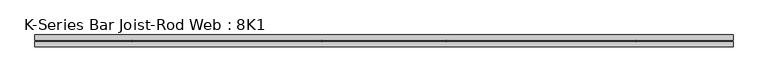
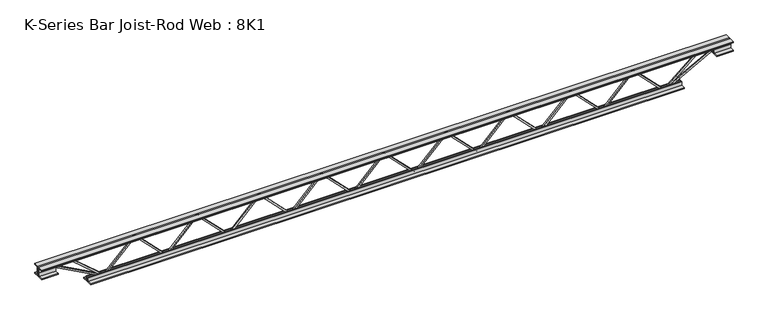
"""IFC4 building model written with IfcOpenShell, lengths in millimetres: beam geometry, K-Series Bar Joist-Rod Web : 8K1."""

from ifc_helpers import new_model, si_unit, frame, origin, place, context, project, spatial, polyline, outline, extrude, source, transform, mapped, element, save


def k_series_bar_joist_rod_web_8k1_4aadf061(model_context):
    return source(origin(), model_context, "Body", "SweptSolid", [
        extrude(outline(polyline([(-90.4875, 968.3504289), (-100.0125, 968.3504289), (-100.0125, 973.521642), (90.4875, 1160.8417278), (90.4875, 1163.1993017), (-100.0125, 1350.5193875), (-100.0125, 1355.6906005), (-90.4875, 1355.6906005), (-90.4875, 1354.5118136), (100.0125, 1167.1917278), (100.0125, 1156.8493017), (-90.4875, 969.5292159), (-90.4875, 968.3504289)])), frame((0.0, -4.7625, 0.0), z_axis=(0.0, 1.0, 0.0), x_axis=(0.0, 0.0, 1.0)), (0.0, 0.0, 1.0), 9.525),
        extrude(outline(polyline([(-90.4875, 581.0102574), (-100.0125, 581.0102574), (-100.0125, 586.1814704), (90.4875, 773.5015562), (90.4875, 775.8591301), (-100.0125, 963.1792159), (-100.0125, 968.3504289), (-90.4875, 968.3504289), (-90.4875, 967.171642), (100.0125, 779.8515562), (100.0125, 769.5091301), (-90.4875, 582.1890443), (-90.4875, 581.0102574)])), frame((0.0, -4.7625, 0.0), z_axis=(0.0, 1.0, 0.0), x_axis=(0.0, 0.0, 1.0)), (0.0, 0.0, 1.0), 9.525),
        extrude(outline(polyline([(-90.4875, 193.6700858), (-100.0125, 193.6700858), (-100.0125, 198.8412988), (90.4875, 386.1613846), (90.4875, 388.5189586), (-100.0125, 575.8390443), (-100.0125, 581.0102574), (-90.4875, 581.0102574), (-90.4875, 579.8314704), (100.0125, 392.5113846), (100.0125, 382.1689586), (-90.4875, 194.8488728), (-90.4875, 193.6700858)])), frame((0.0, -4.7625, 0.0), z_axis=(0.0, 1.0, 0.0), x_axis=(0.0, 0.0, 1.0)), (0.0, 0.0, 1.0), 9.525),
        extrude(outline(polyline([(-90.4875, -193.6700858), (-100.0125, -193.6700858), (-100.0125, -188.4988728), (90.4875, -1.178787), (90.4875, 1.178787), (-100.0125, 188.4988728), (-100.0125, 193.6700858), (-90.4875, 193.6700858), (-90.4875, 192.4912988), (100.0125, 5.171213), (100.0125, -5.171213), (-90.4875, -192.4912988), (-90.4875, -193.6700858)])), frame((0.0, -4.7625, 0.0), z_axis=(0.0, 1.0, 0.0), x_axis=(0.0, 0.0, 1.0)), (0.0, 0.0, 1.0), 9.525),
        extrude(outline(polyline([(-90.4875, -581.0102574), (-100.0125, -581.0102574), (-100.0125, -575.8390443), (90.4875, -388.5189586), (90.4875, -386.1613846), (-100.0125, -198.8412988), (-100.0125, -193.6700858), (-90.4875, -193.6700858), (-90.4875, -194.8488728), (100.0125, -382.1689586), (100.0125, -392.5113846), (-90.4875, -579.8314704), (-90.4875, -581.0102574)])), frame((0.0, -4.7625, 0.0), z_axis=(0.0, 1.0, 0.0), x_axis=(0.0, 0.0, 1.0)), (0.0, 0.0, 1.0), 9.525),
        extrude(outline(polyline([(-90.4875, -968.3504289), (-100.0125, -968.3504289), (-100.0125, -963.1792159), (90.4875, -775.8591301), (90.4875, -773.5015562), (-100.0125, -586.1814704), (-100.0125, -581.0102574), (-90.4875, -581.0102574), (-90.4875, -582.1890443), (100.0125, -769.5091301), (100.0125, -779.8515562), (-90.4875, -967.171642), (-90.4875, -968.3504289)])), frame((0.0, -4.7625, 0.0), z_axis=(0.0, 1.0, 0.0), x_axis=(0.0, 0.0, 1.0)), (0.0, 0.0, 1.0), 9.525),
        extrude(outline(polyline([(-90.4875, -1355.6906005), (-100.0125, -1355.6906005), (-100.0125, -1350.5193875), (90.4875, -1163.1993017), (90.4875, -1160.8417278), (-100.0125, -973.521642), (-100.0125, -968.3504289), (-90.4875, -968.3504289), (-90.4875, -969.5292159), (100.0125, -1156.8493017), (100.0125, -1167.1917278), (-90.4875, -1354.5118136), (-90.4875, -1355.6906005)])), frame((0.0, -4.7625, 0.0), z_axis=(0.0, 1.0, 0.0), x_axis=(0.0, 0.0, 1.0)), (0.0, 0.0, 1.0), 9.525),
        extrude(outline(polyline([(-90.4875, 1355.6906005), (-100.0125, 1355.6906005), (-100.0125, 1360.8618136), (90.4875, 1548.1818993), (90.4875, 1550.5394733), (-100.0125, 1737.8595591), (-100.0125, 1743.0307721), (-90.4875, 1743.0307721), (-90.4875, 1741.8519851), (100.0125, 1554.5318993), (100.0125, 1544.1894733), (-90.4875, 1356.8693875), (-90.4875, 1355.6906005)])), frame((0.0, -4.7625, 0.0), z_axis=(0.0, 1.0, 0.0), x_axis=(0.0, 0.0, 1.0)), (0.0, 0.0, 1.0), 9.525),
        extrude(outline(polyline([(-90.4875, -1743.0307721), (-100.0125, -1743.0307721), (-100.0125, -1737.8595591), (90.4875, -1550.5394733), (90.4875, -1548.1818993), (-100.0125, -1360.8618136), (-100.0125, -1355.6906005), (-90.4875, -1355.6906005), (-90.4875, -1356.8693875), (100.0125, -1544.1894733), (100.0125, -1554.5318993), (-90.4875, -1741.8519851), (-90.4875, -1743.0307721)])), frame((0.0, -4.7625, 0.0), z_axis=(0.0, 1.0, 0.0), x_axis=(0.0, 0.0, 1.0)), (0.0, 0.0, 1.0), 9.525),
        extrude(outline(polyline([(4.7625, 101.6), (36.5125, 101.6), (36.5125, 95.25), (11.1125, 95.25), (11.1125, 69.85), (4.7625, 69.85), (4.7625, 101.6)])), frame((-2149.4307721, 0.0, 0.0), z_axis=(1.0, 0.0, 0.0), x_axis=(0.0, 1.0, 0.0)), (0.0, 0.0, 1.0), 4298.8615442),
        extrude(outline(polyline([(-4.7625, 101.6), (-4.7625, 69.85), (-11.1125, 69.85), (-11.1125, 95.25), (-36.5125, 95.25), (-36.5125, 101.6), (-4.7625, 101.6)])), frame((-2149.4307721, 0.0, 0.0), z_axis=(1.0, 0.0, 0.0), x_axis=(0.0, 1.0, 0.0)), (0.0, 0.0, 1.0), 4298.8615442),
        extrude(outline(polyline([(-4.7625, 38.1), (-36.5125, 38.1), (-36.5125, 44.45), (-11.1125, 44.45), (-11.1125, 69.85), (-4.7625, 69.85), (-4.7625, 38.1)])), frame((-2149.4307721, 0.0, 0.0), z_axis=(1.0, 0.0, 0.0), x_axis=(0.0, 1.0, 0.0)), (0.0, 0.0, 1.0), 101.6),
        extrude(outline(polyline([(36.5125, 38.1), (4.7625, 38.1), (4.7625, 69.85), (11.1125, 69.85), (11.1125, 44.45), (36.5125, 44.45), (36.5125, 38.1)])), frame((-2149.4307721, 0.0, 0.0), z_axis=(1.0, 0.0, 0.0), x_axis=(0.0, 1.0, 0.0)), (0.0, 0.0, 1.0), 101.6),
        extrude(outline(polyline([(4.7625, 38.1), (4.7625, 69.85), (11.1125, 69.85), (11.1125, 44.45), (36.5125, 44.45), (36.5125, 38.1), (4.7625, 38.1)])), frame((2047.8307721, 0.0, 0.0), z_axis=(1.0, 0.0, 0.0), x_axis=(0.0, 1.0, 0.0)), (0.0, 0.0, 1.0), 101.6),
        extrude(outline(polyline([(-4.7625, 38.1), (-36.5125, 38.1), (-36.5125, 44.45), (-11.1125, 44.45), (-11.1125, 69.85), (-4.7625, 69.85), (-4.7625, 38.1)])), frame((2047.8307721, 0.0, 0.0), z_axis=(1.0, 0.0, 0.0), x_axis=(0.0, 1.0, 0.0)), (0.0, 0.0, 1.0), 101.6),
        extrude(outline(polyline([(4.7625, -101.6), (4.7625, -69.85), (11.1125, -69.85), (11.1125, -95.25), (36.5125, -95.25), (36.5125, -101.6), (4.7625, -101.6)])), frame((-1844.6307721, 0.0, 0.0), z_axis=(1.0, 0.0, 0.0), x_axis=(0.0, 1.0, 0.0)), (0.0, 0.0, 1.0), 3689.2615442),
        extrude(outline(polyline([(-4.7625, -101.6), (-36.5125, -101.6), (-36.5125, -95.25), (-11.1125, -95.25), (-11.1125, -69.85), (-4.7625, -69.85), (-4.7625, -101.6)])), frame((-1844.6307721, 0.0, 0.0), z_axis=(1.0, 0.0, 0.0), x_axis=(0.0, 1.0, 0.0)), (0.0, 0.0, 1.0), 3689.2615442),
        extrude(outline(polyline([(0.0, -9.525), (0.0, 0.0), (346.6425392, 0.0), (346.6425392, -9.525), (0.0, -9.525)])), frame((-2050.0990706, 4.7625, 65.662372), z_axis=(0.47628314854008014, 0.0, 0.8792919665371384), x_axis=(0.8792919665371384, 0.0, -0.47628314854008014)), (0.0, 0.0, 1.0), 9.525),
        extrude(outline(polyline([(0.0, -9.525), (0.0, 0.0), (254.4918705, 0.0), (254.4918705, -9.525), (0.0, -9.525)])), frame((-1939.7904998, 4.7625, 66.2257043), z_axis=(0.6487437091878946, 0.0, 0.7610069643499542), x_axis=(0.7610069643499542, 0.0, -0.6487437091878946)), (0.0, 0.0, 1.0), 9.525),
        extrude(outline(polyline([(0.0, -9.525), (0.0, 0.0), (346.6425392, 0.0), (346.6425392, -9.525), (0.0, -9.525)])), frame((2050.0990706, -4.7625, 65.662372), z_axis=(-0.476283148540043, 0.0, 0.8792919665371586), x_axis=(-0.8792919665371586, 0.0, -0.476283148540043)), (0.0, 0.0, 1.0), 9.525),
        extrude(outline(polyline([(0.0, -9.525), (0.0, 0.0), (254.4918705, 0.0), (254.4918705, -9.525), (0.0, -9.525)])), frame((1939.7904998, -4.7625, 66.2257043), z_axis=(-0.648743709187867, 0.0, 0.7610069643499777), x_axis=(-0.7610069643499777, 0.0, -0.648743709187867)), (0.0, 0.0, 1.0), 9.525),
    ])


if __name__ == "__main__":
    model = new_model("IFC4")
    model_context = context("Model", 3, world=origin())
    ifc_project = project(units=[si_unit("LENGTHUNIT", "METRE", prefix="MILLI")], contexts=[model_context])
    site = spatial("IfcSite", under=ifc_project)
    building = spatial("IfcBuilding", under=site)
    placement = place(None, origin())
    k_series_bar_joist_rod_web_8k1_shape = k_series_bar_joist_rod_web_8k1_4aadf061(model_context)
    element("IfcBeam", 1, ObjectType="K-Series Bar Joist-Rod Web : 8K1", at=placement, inside=building, context=model_context, shape_type="MappedRepresentation", body=[
        mapped(k_series_bar_joist_rod_web_8k1_shape, transform((0.0, 0.0, 0.0), x_axis=(1.0, 0.0, 0.0), y_axis=(0.0, 1.0, 0.0), z_axis=(0.0, 0.0, 1.0))),
    ])
    save(model, "model.ifc")
